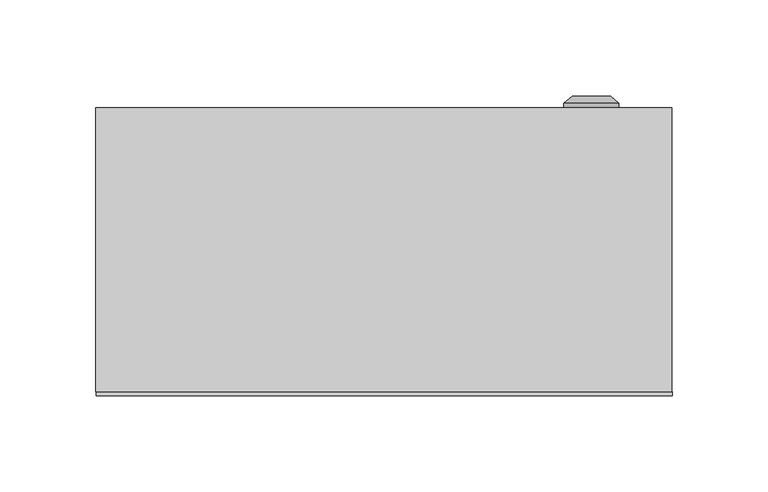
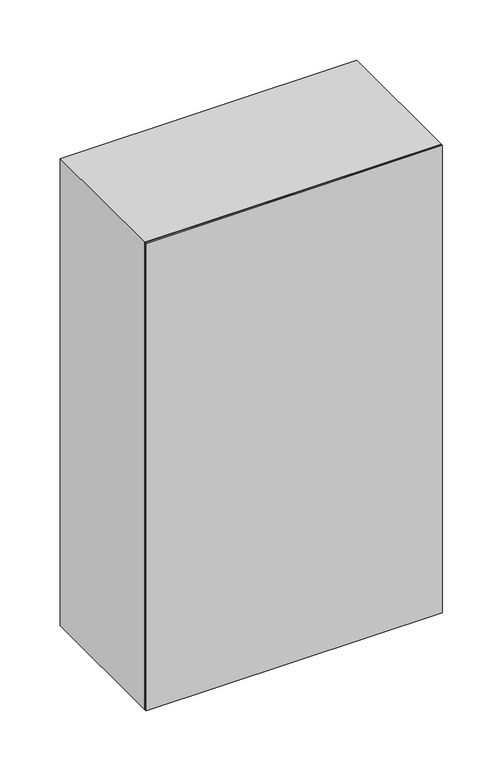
"""IFC4 building model written with IfcOpenShell, lengths in millimetres: proxy geometry, ЩМП : ЩМП-5.3.15_500х300х150."""

from ifc_helpers import new_model, si_unit, frame, origin, origin_with_axes, place, context, project, spatial, polyline, circle_curve, outline, extrude, source, transform, mapped, element, save
from ifc_brep_helpers import plane_surface, cylinder_surface, revolved_surface, advanced_brep


def electrical_equipment_4e077a6b(model_context):
    return source(origin(), model_context, "Body", "SolidModel", [
        advanced_brep(
        [(93.669873, 150.0, 245.0), (122.330127, 150.0, 245.0), (108.0, 150.0, 245.0), (93.669873, 152.366592, 245.0), (122.330127, 152.366592, 245.0), (98.0, 156.0, 245.0), (118.0, 156.0, 245.0), (106.1080471, 156.0, 245.0), (109.8919529, 156.0, 245.0), (106.1080471, 154.9822294, 245.0), (109.8919529, 154.9822294, 245.0), (108.0, 154.9822294, 245.0)],
        [
            (0, 1, circle_curve(frame((108.0, 150.0, 245.0), z_axis=(0.0, -1.0, 0.0), x_axis=(1.0, 0.0, 0.0)), 14.330127)),
            (1, 2),
            (2, 0),
            (1, 0, circle_curve(frame((108.0, 150.0, 245.0), z_axis=(0.0, -1.0, 0.0), x_axis=(1.0, 0.0, 0.0)), 14.330127)),
            (3, 4, circle_curve(frame((108.0, 152.366592, 245.0), z_axis=(0.0, -1.0, 0.0), x_axis=(1.0, 0.0, 0.0)), 14.330127)),
            (4, 1),
            (0, 3),
            (4, 3, circle_curve(frame((108.0, 152.366592, 245.0), z_axis=(0.0, -1.0, 0.0), x_axis=(1.0, 0.0, 0.0)), 14.330127)),
            (5, 6, circle_curve(frame((108.0, 156.0, 245.0), z_axis=(0.0, -1.0, 0.0), x_axis=(1.0, 0.0, 0.0)), 10.0)),
            (6, 4),
            (3, 5),
            (6, 5, circle_curve(frame((108.0, 156.0, 245.0), z_axis=(0.0, -1.0, 0.0), x_axis=(1.0, 0.0, 0.0)), 10.0)),
            (7, 8, circle_curve(frame((108.0, 156.0, 245.0), z_axis=(0.0, -1.0, 0.0), x_axis=(1.0, 0.0, 0.0)), 1.8919529)),
            (8, 6),
            (5, 7),
            (8, 7, circle_curve(frame((108.0, 156.0, 245.0), z_axis=(0.0, -1.0, 0.0), x_axis=(1.0, 0.0, 0.0)), 1.8919529)),
            (9, 10, circle_curve(frame((108.0, 154.9822294, 245.0), z_axis=(0.0, -1.0, 0.0), x_axis=(1.0, 0.0, 0.0)), 1.8919529)),
            (10, 8),
            (7, 9),
            (10, 9, circle_curve(frame((108.0, 154.9822294, 245.0), z_axis=(0.0, -1.0, 0.0), x_axis=(1.0, 0.0, 0.0)), 1.8919529)),
            (11, 10),
            (9, 11),
        ],
        [
            plane_surface(frame((108.0, 150.0, 245.0), z_axis=(0.0, -1.0, 0.0), x_axis=(1.0, 0.0, 0.0))),
            cylinder_surface(frame((108.0, 163.1348851, 245.0), z_axis=(0.0, 1.0, 0.0), x_axis=(1.0, 0.0, 0.0)), 14.330127),
            revolved_surface(polyline([(122.330127, 152.366592, 245.0), (118.0, 156.0, 245.0)]), (108.0, 163.1348851, 245.0), (0.0, 1.0, 0.0)),
            plane_surface(frame((108.0, 156.0, 245.0), z_axis=(0.0, 1.0, 0.0), x_axis=(1.0, 0.0, 0.0))),
            revolved_surface(polyline([(109.8919529, 156.0, 245.0), (109.8919529, 154.9822294, 245.0)]), (108.0, 163.1348851, 245.0), (0.0, 1.0, 0.0)),
            plane_surface(frame((108.0, 154.9822294, 245.0), z_axis=(0.0, 1.0, 0.0), x_axis=(1.0, 0.0, 0.0))),
        ],
        [
            (0, [[1, 2, 3]]),
            (0, [[4, -3, -2]]),
            (1, [[5, 6, -1, 7]]),
            (1, [[8, -7, -4, -6]]),
            (2, [[9, 10, -5, 11]]),
            (2, [[12, -11, -8, -10]]),
            (3, [[13, 14, -9, 15]]),
            (3, [[16, -15, -12, -14]]),
            (4, [[17, 18, -13, 19]]),
            (4, [[20, -19, -16, -18]]),
            (5, [[21, -17, 22]]),
            (5, [[-22, -20, -21]]),
        ],
    ),
        extrude(outline(polyline([(133.0, 125.0), (-133.0, 125.0), (-133.0, 150.0), (133.0, 150.0), (133.0, 125.0)])), frame((0.0, 0.0, 16.0), z_axis=(0.0, 0.0, 1.0), x_axis=(1.0, 0.0, 0.0)), (0.0, 0.0, 1.0), 468.0),
        extrude(outline(polyline([(500.0, -150.0033905), (0.0, -150.0033905), (0.0, 149.9966095), (500.0, 149.9966095), (500.0, -150.0033905)]), holes=[polyline([(465.0, -118.0033905), (465.0, 117.9966095), (25.0, 117.9966095), (25.0, -118.0033905), (465.0, -118.0033905)])]), frame((0.0, 2.0, 0.0), z_axis=(0.0, 1.0, 0.0), x_axis=(0.0, 0.0, 1.0)), (0.0, 0.0, 1.0), 148.0),
        extrude(outline(polyline([(150.0, 0.0), (-150.0, 0.0), (-150.0, 2.0), (150.0, 2.0), (150.0, 0.0)])), origin_with_axes(), (0.0, 0.0, 1.0), 500.0),
    ])


if __name__ == "__main__":
    model = new_model("IFC4")
    model_context = context("Model", 3, world=origin())
    ifc_project = project(units=[si_unit("LENGTHUNIT", "METRE", prefix="MILLI")], contexts=[model_context])
    site = spatial("IfcSite", under=ifc_project)
    building = spatial("IfcBuilding", under=site)
    placement = place(None, origin())
    electrical_equipment_shape = electrical_equipment_4e077a6b(model_context)
    element("IfcBuildingElementProxy", 1, Name="ЩМП : ЩМП-5.3.15_500х300х150", ObjectType="ЩМП : ЩМП-5.3.15_500х300х150", at=placement, inside=building, context=model_context, shape_type="MappedRepresentation", body=[
        mapped(electrical_equipment_shape, transform((0.0, 0.0, 0.0), x_axis=(1.0, 0.0, 0.0), y_axis=(0.0, 1.0, 0.0), z_axis=(0.0, 0.0, 1.0))),
    ])
    save(model, "model.ifc")
